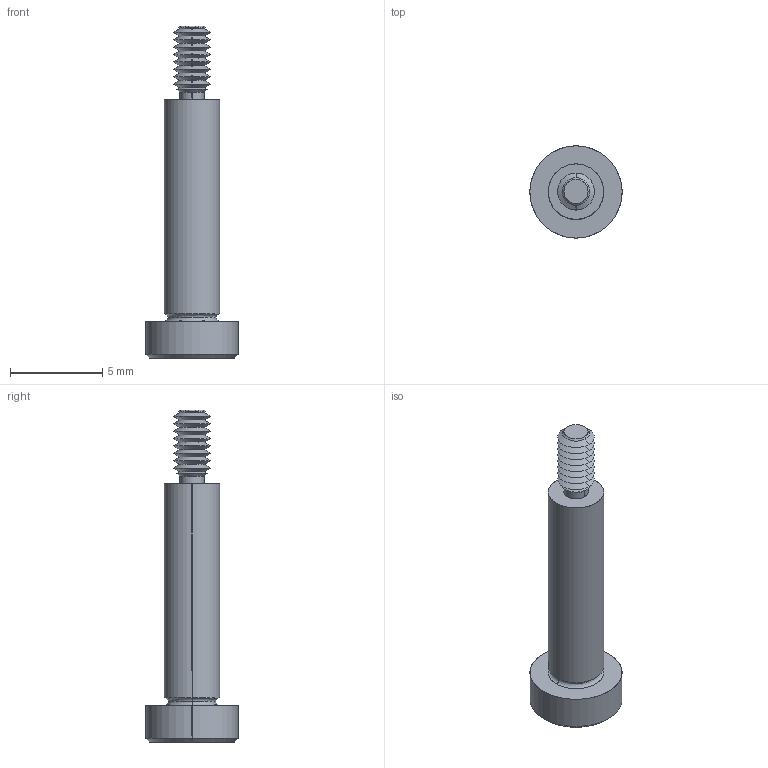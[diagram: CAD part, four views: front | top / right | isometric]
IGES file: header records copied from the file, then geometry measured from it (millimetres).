
Start section: SolidWorks IGES file using analytic representation for surfaces
Global section: file name: C:\Users\IanO\Documents\Temp Folder\GENERAL\SCREW REVISION\P0130_v2\P0130.T5_v2_20220106_IGES\P0130.030-012-T5.igs; native system: SolidWorks 2019; preprocessor: SolidWorks 2019; author: IanO; date: 220106.220113; units: millimetre
Bounding box: 5 x 5 x 18 mm (x, y, z)
Surface area: 229.4 mm2 (no closed solid volume)
Topology: 0 solids, 0 shells, 76 faces, 508 edges, 506 vertices
Faces by surface type: revolution 56, bspline 20
